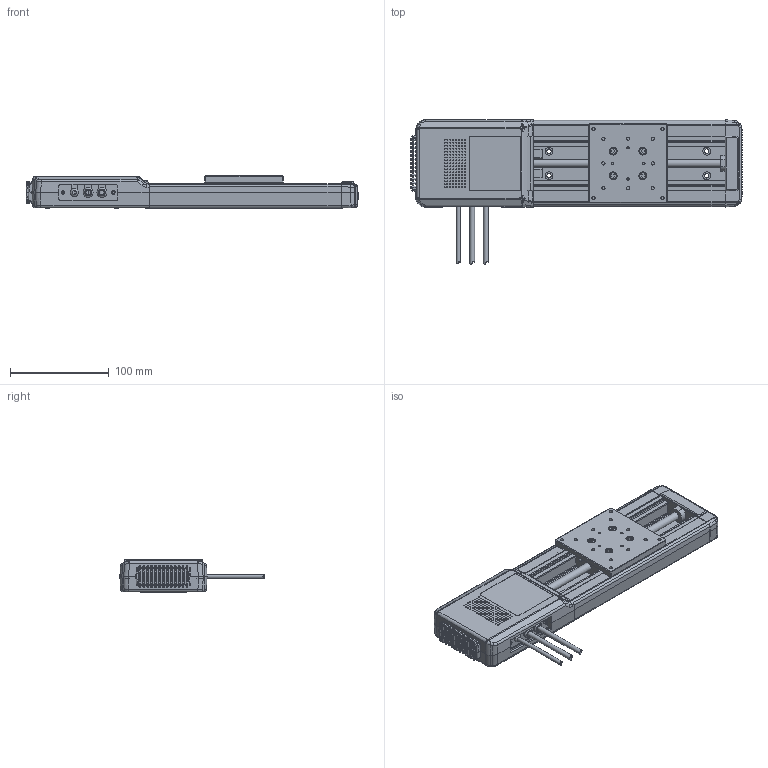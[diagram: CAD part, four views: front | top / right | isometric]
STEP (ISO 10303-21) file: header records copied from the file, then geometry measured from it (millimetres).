
FILE_DESCRIPTION((''),'2;1');
FILE_NAME('Z:\3DDATA\1_motorized stages\01_国内製品\3_Am\SGMV26\SGMV26-100(X)\SGMV2610-M02-13001-TS01.stp','2013-05-15T17:40:11',('s.makino'),(''),'Autodesk Inventor 2008','Autodesk Inventor 2008','');
FILE_SCHEMA(('AUTOMOTIVE_DESIGN { 1 0 10303 214 1 1 1 1 }'));
Length unit declared in the file: millimetre
Products named in the file (3): SGMV2610-M02-13001-TS01; SGMV2610-M02-13001-S09; SGMV2610-M02-13001-S03
Assembly tree (2 placements, depth 2):
  SGMV2610-M02-13001-TS01
    SGMV2610-M02-13001-S09
    SGMV2610-M02-13001-S03
Bounding box: 336.81 x 146.35 x 33 mm (x, y, z)
Volume: 388489.6 mm3; surface area: 259994.9 mm2
Topology: 2 solids, 59 shells, 3383 faces, 8885 edges, 5690 vertices
Faces by surface type: plane 1744, cylinder 955, bspline 400, sphere 150, cone 117, torus 17
Full cylindrical faces by diameter (mm): 1 x136, 1.5 x4, 2 x13, 2.2 x2, 2.5 x1, 2.6 x22, 2.7 x2, 3 x11, 3.1 x8, 3.5 x7, 3.8 x12, 4 x13, 4.2 x2, 4.5 x17, 4.7 x2, 5 x12, 5.5 x7, 6 x2, 6.5 x1, 7 x8, 8 x5, 10 x4, 11.6 x1, 16 x2
Entity records: 109394 total; most frequent: CARTESIAN_POINT 31085, DIRECTION 16000, ORIENTED_EDGE 15448, EDGE_CURVE 7724, AXIS2_PLACEMENT_3D 5555, VERTEX_POINT 5255, VECTOR 4890, LINE 4890
